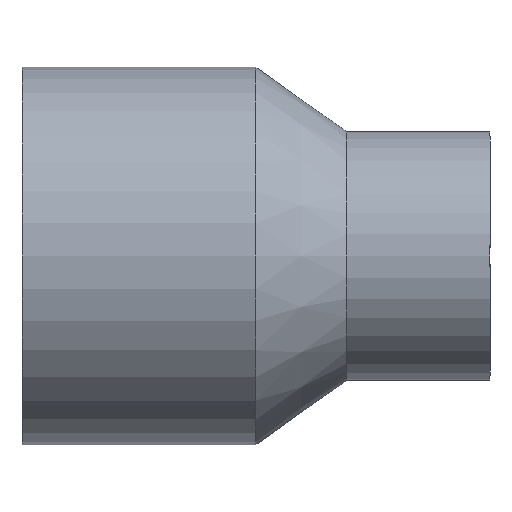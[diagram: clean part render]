
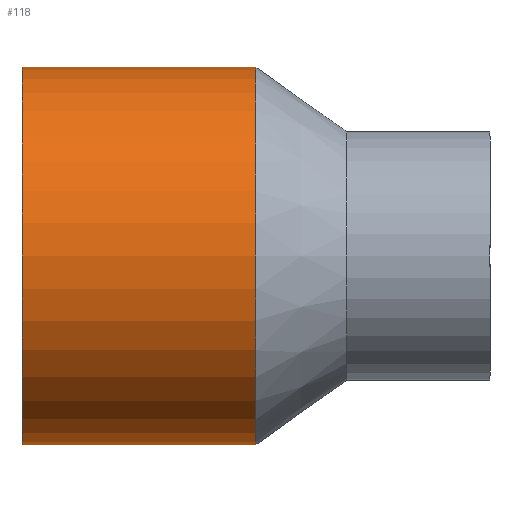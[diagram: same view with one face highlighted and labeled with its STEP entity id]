
A CAD part, front view. The second image highlights one B-rep face of the part: STEP entity #118.
In plain terms, the highlighted cylindrical face has radius 25 mm (diameter 50 mm), a full revolution.
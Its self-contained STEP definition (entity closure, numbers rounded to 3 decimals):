
#18=CYLINDRICAL_SURFACE('',#134,25.);
#25=FACE_BOUND('',#49,.T.);
#35=FACE_OUTER_BOUND('',#48,.T.);
#48=EDGE_LOOP('',(#98));
#49=EDGE_LOOP('',(#99));
#65=CIRCLE('',#133,25.);
#66=CIRCLE('',#135,25.);
#75=VERTEX_POINT('',#199);
#76=VERTEX_POINT('',#202);
#85=EDGE_CURVE('',#75,#75,#65,.T.);
#86=EDGE_CURVE('',#76,#76,#66,.T.);
#98=ORIENTED_EDGE('',*,*,#85,.T.);
#99=ORIENTED_EDGE('',*,*,#86,.F.);
#118=ADVANCED_FACE('',(#35,#25),#18,.T.);
#133=AXIS2_PLACEMENT_3D('',#200,#161,#162);
#134=AXIS2_PLACEMENT_3D('',#201,#163,#164);
#135=AXIS2_PLACEMENT_3D('',#203,#165,#166);
#161=DIRECTION('center_axis',(-1.,0.,0.));
#162=DIRECTION('ref_axis',(0.,0.,1.));
#163=DIRECTION('center_axis',(-1.,0.,0.));
#164=DIRECTION('ref_axis',(0.,-1.,0.));
#165=DIRECTION('center_axis',(-1.,0.,0.));
#166=DIRECTION('ref_axis',(0.,0.,1.));
#199=CARTESIAN_POINT('',(0.,-25.,0.));
#200=CARTESIAN_POINT('Origin',(0.,0.,0.));
#201=CARTESIAN_POINT('Origin',(-15.5,0.,0.));
#202=CARTESIAN_POINT('',(-31.,-25.,0.));
#203=CARTESIAN_POINT('Origin',(-31.,0.,0.));
